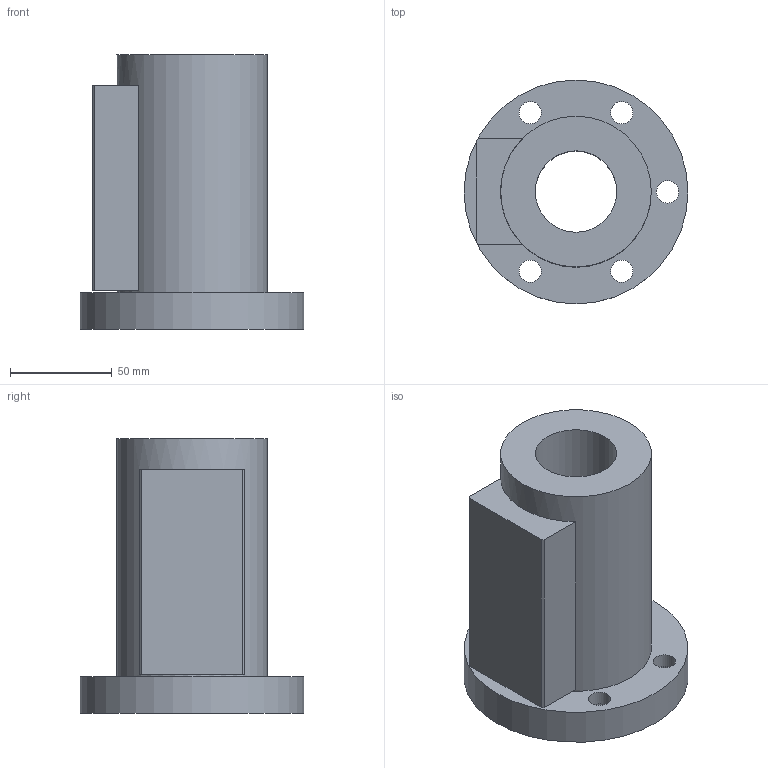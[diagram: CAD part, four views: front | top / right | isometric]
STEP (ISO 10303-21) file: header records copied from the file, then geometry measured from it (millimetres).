
FILE_DESCRIPTION(/* description */ (''),/* implementation_level */ '2;1');
FILE_NAME(/* name */ '40-16B2',/* time_stamp */ '2006-07-31T10:05:46+08:00',/* author */ (''),/* organization */ (''),/* preprocessor_version */ 'ST-DEVELOPER v9',/* originating_system */ 'UGS - NX 4.0',/* authorisation */ '');
FILE_SCHEMA (('CONFIG_CONTROL_DESIGN'));
Length unit declared in the file: millimetre
Products named in the file (1): 40-16B2
Bounding box: 110 x 110 x 135 mm (x, y, z)
Volume: 568437 mm3; surface area: 75643.3 mm2
Topology: 1 solids, 1 shells, 28 faces, 61 edges, 42 vertices
Faces by surface type: plane 15, cylinder 13
Full cylindrical faces by diameter (mm): 11 x5, 17.5 x5, 40 x1, 74 x1, 110 x1
Entity records: 794 total; most frequent: DIRECTION 130, CARTESIAN_POINT 111, ORIENTED_EDGE 88, EDGE_LOOP 60, AXIS2_PLACEMENT_3D 57, FACE_BOUND 45, EDGE_CURVE 44, VERTEX_POINT 38
